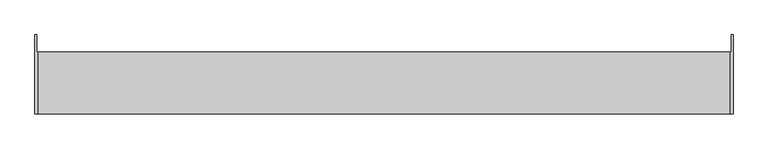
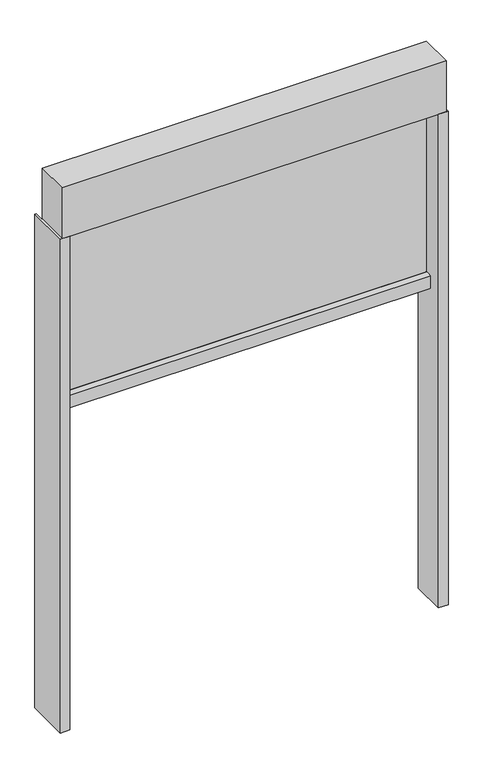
"""IFC4 building model written with IfcOpenShell, lengths in millimetres: proxy geometry, Renson_Fixscreen_Minimal_Single : Recessed - Front of the window - Small - Access downwards - Fabric close to the window."""

from ifc_helpers import new_model, si_unit, point, frame, frame_2d, origin, origin_with_axes, place, context, project, spatial, polyline, circle_curve, trimmed, segment, composite_curve, outline, extrude, source, transform, mapped, element, save


def generic_models_a0941efc(model_context):
    return source(origin(), model_context, "Body", "SweptSolid", [
        extrude(outline(polyline([(-502.0, 693.5959909), (-480.0, 693.5959909), (-480.0, 603.5959909), (-505.0, 603.5959909), (-505.0, 718.5959909), (-502.0, 718.5959909), (-502.0, 693.5959909)])), origin_with_axes(), (0.0, 0.0, 1.0), 1360.0),
        extrude(outline(polyline([(502.0, 693.5959909), (502.0, 718.5959909), (505.0, 718.5959909), (505.0, 603.5959909), (480.0, 603.5959909), (480.0, 693.5959909), (502.0, 693.5959909)])), origin_with_axes(), (0.0, 0.0, 1.0), 1360.0),
        extrude(outline(composite_curve([segment(polyline([(678.5959909, 860.0), (638.0960943, 860.0), (638.0960943, 894.1156826), (655.2198229, 895.0)]), True, "CONTINUOUS"), segment(trimmed(circle_curve(frame_2d((655.2459909, 894.5006852)), 0.5), [point((655.2198229, 895.0))], [point((655.7459909, 894.5006852))], False, "CARTESIAN"), True, "CONTINUOUS"), segment(polyline([(655.7459909, 894.5006852), (655.7459909, 893.5367989), (654.4808525, 893.5367989), (655.221156, 889.0119223)]), True, "CONTINUOUS"), segment(trimmed(circle_curve(frame_2d((615.7459909, 882.5534911)), 40.0), [point((655.221156, 889.0119223))], [point((655.7459909, 882.5534911))], False, "CARTESIAN"), True, "CONTINUOUS"), segment(polyline([(655.7459909, 882.5534911), (655.7459909, 874.5006852)]), True, "CONTINUOUS"), segment(trimmed(circle_curve(frame_2d((657.7459909, 874.5006852)), 2.0), [point((655.7459909, 874.5006852))], [point((657.7459909, 872.5006852))], True, "CARTESIAN"), True, "CONTINUOUS"), segment(polyline([(657.7459909, 872.5006852), (659.4459909, 872.5006852)]), True, "CONTINUOUS"), segment(trimmed(circle_curve(frame_2d((659.4459909, 874.5006852)), 2.0), [point((659.4459909, 872.5006852))], [point((661.4459909, 874.5006852))], True, "CARTESIAN"), True, "CONTINUOUS"), segment(polyline([(661.4459909, 874.5006852), (661.4459909, 882.5534911)]), True, "CONTINUOUS"), segment(trimmed(circle_curve(frame_2d((701.4459909, 882.5534911)), 40.0), [point((661.4459909, 882.5534911))], [point((661.9708257, 889.0119223))], False, "CARTESIAN"), True, "CONTINUOUS"), segment(polyline([(661.9708257, 889.0119223), (662.7111292, 893.5367989), (661.4459909, 893.5367989), (661.4459909, 894.5006852)]), True, "CONTINUOUS"), segment(trimmed(circle_curve(frame_2d((661.9459909, 894.5006852)), 0.5), [point((661.4459909, 894.5006852))], [point((661.9721588, 895.0))], False, "CARTESIAN"), True, "CONTINUOUS"), segment(polyline([(661.9721588, 895.0), (678.5959909, 894.1156826), (678.5959909, 860.0)]), True, "CONTINUOUS")], self_intersect=False)), frame((-480.0, 0.0, 0.0), z_axis=(1.0, 0.0, 0.0), x_axis=(0.0, 1.0, 0.0)), (0.0, 0.0, 1.0), 960.0),
        extrude(outline(polyline([(-500.0, 603.5959909), (-500.0, 693.5959909), (500.0, 693.5959909), (500.0, 603.5959909), (-500.0, 603.5959909)])), frame((0.0, 0.0, 1360.0), z_axis=(0.0, 0.0, 1.0), x_axis=(1.0, 0.0, 0.0)), (0.0, 0.0, 1.0), 140.0),
        extrude(outline(polyline([(-480.0, 660.0959909), (480.0, 660.0959909), (480.0, 657.0959909), (-480.0, 657.0959909), (-480.0, 660.0959909)])), frame((0.0, 0.0, 872.5006852), z_axis=(0.0, 0.0, 1.0), x_axis=(1.0, 0.0, 0.0)), (0.0, 0.0, 1.0), 487.4993148),
    ])


if __name__ == "__main__":
    model = new_model("IFC4")
    model_context = context("Model", 3, world=origin())
    ifc_project = project(units=[si_unit("LENGTHUNIT", "METRE", prefix="MILLI")], contexts=[model_context])
    site = spatial("IfcSite", under=ifc_project)
    building = spatial("IfcBuilding", under=site)
    placement = place(None, origin())
    generic_models_shape = generic_models_a0941efc(model_context)
    element("IfcBuildingElementProxy", 1, Name="Renson_Fixscreen_Minimal_Single : Recessed - Front of the window - Small - Access downwards - Fabric close to the window", ObjectType="Renson_Fixscreen_Minimal_Single : Recessed - Front of the window - Small - Access downwards - Fabric close to the window", at=placement, inside=building, context=model_context, shape_type="MappedRepresentation", body=[
        mapped(generic_models_shape, transform((0.0, 0.0, 0.0), x_axis=(1.0, 0.0, 0.0), y_axis=(0.0, 1.0, 0.0), z_axis=(0.0, 0.0, 1.0))),
    ])
    save(model, "model.ifc")
